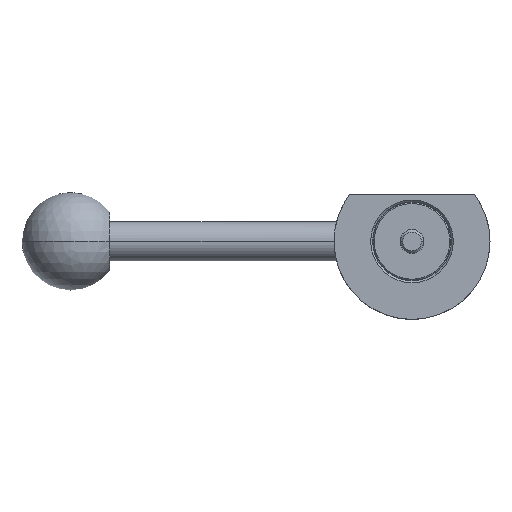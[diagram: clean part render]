
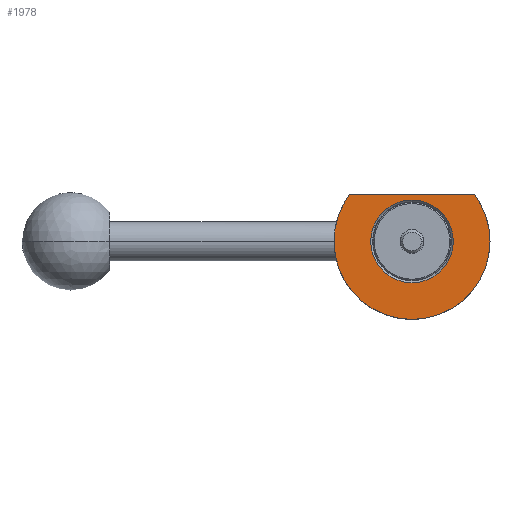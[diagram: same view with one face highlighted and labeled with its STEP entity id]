
A CAD part, front view. The second image highlights one B-rep face of the part: STEP entity #1978.
In plain terms, the highlighted planar face has unit normal (0, -1, 0).
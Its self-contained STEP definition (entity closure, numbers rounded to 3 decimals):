
#60 = CARTESIAN_POINT ( 'NONE',  ( -10.6, -10., 0. ) ) ;
#67 = EDGE_CURVE ( 'NONE', #704, #684, #894, .T. ) ;
#80 = EDGE_CURVE ( 'NONE', #2025, #153, #98, .T. ) ;
#93 = AXIS2_PLACEMENT_3D ( 'NONE', #1556, #1124, #953 ) ;
#98 = CIRCLE ( 'NONE', #892, 10.6 ) ;
#117 = FACE_OUTER_BOUND ( 'NONE', #1683, .T. ) ;
#128 = FACE_BOUND ( 'NONE', #315, .T. ) ;
#141 = DIRECTION ( 'NONE',  ( 0., 1., 0. ) ) ;
#153 = VERTEX_POINT ( 'NONE', #1991 ) ;
#189 = VERTEX_POINT ( 'NONE', #2002 ) ;
#245 = CARTESIAN_POINT ( 'NONE',  ( 0., -10., 0. ) ) ;
#257 = DIRECTION ( 'NONE',  ( 1., 0., 0. ) ) ;
#280 = DIRECTION ( 'NONE',  ( 0., 1., 0. ) ) ;
#299 = CIRCLE ( 'NONE', #93, 10.6 ) ;
#315 = EDGE_LOOP ( 'NONE', ( #1298, #1769 ) ) ;
#363 = CARTESIAN_POINT ( 'NONE',  ( 16.001, -10., 11.999 ) ) ;
#421 = VERTEX_POINT ( 'NONE', #363 ) ;
#427 = LINE ( 'NONE', #1375, #593 ) ;
#441 = DIRECTION ( 'NONE',  ( -1., 0., 0. ) ) ;
#558 = DIRECTION ( 'NONE',  ( 0., 1., 0. ) ) ;
#573 = CARTESIAN_POINT ( 'NONE',  ( 0., -10., 0. ) ) ;
#586 = DIRECTION ( 'NONE',  ( -1., 0., 0. ) ) ;
#593 = VECTOR ( 'NONE', #586, 1000. ) ;
#627 = CIRCLE ( 'NONE', #1698, 20. ) ;
#671 = EDGE_CURVE ( 'NONE', #421, #189, #959, .T. ) ;
#684 = VERTEX_POINT ( 'NONE', #1038 ) ;
#704 = VERTEX_POINT ( 'NONE', #1860 ) ;
#708 = EDGE_CURVE ( 'NONE', #421, #684, #427, .T. ) ;
#744 = PLANE ( 'NONE',  #1743 ) ;
#836 = ORIENTED_EDGE ( 'NONE', *, *, #1618, .F. ) ;
#892 = AXIS2_PLACEMENT_3D ( 'NONE', #573, #141, #2022 ) ;
#894 = CIRCLE ( 'NONE', #1665, 20. ) ;
#902 = DIRECTION ( 'NONE',  ( 0., -1., 0. ) ) ;
#941 = CARTESIAN_POINT ( 'NONE',  ( 0., -10., 0. ) ) ;
#953 = DIRECTION ( 'NONE',  ( -1., 0., 0. ) ) ;
#959 = CIRCLE ( 'NONE', #2026, 20. ) ;
#1038 = CARTESIAN_POINT ( 'NONE',  ( -16.001, -10., 11.999 ) ) ;
#1060 = DIRECTION ( 'NONE',  ( -1., 0., 0. ) ) ;
#1124 = DIRECTION ( 'NONE',  ( 0., 1., 0. ) ) ;
#1153 = EDGE_CURVE ( 'NONE', #153, #2025, #299, .T. ) ;
#1298 = ORIENTED_EDGE ( 'NONE', *, *, #1153, .T. ) ;
#1375 = CARTESIAN_POINT ( 'NONE',  ( -10.6, -10., 11.999 ) ) ;
#1404 = CARTESIAN_POINT ( 'NONE',  ( 0., -10., 0. ) ) ;
#1511 = ORIENTED_EDGE ( 'NONE', *, *, #671, .F. ) ;
#1543 = CARTESIAN_POINT ( 'NONE',  ( -10.6, -10., 0. ) ) ;
#1556 = CARTESIAN_POINT ( 'NONE',  ( 0., -10., 0. ) ) ;
#1565 = DIRECTION ( 'NONE',  ( 0., 1., 0. ) ) ;
#1618 = EDGE_CURVE ( 'NONE', #189, #704, #627, .T. ) ;
#1665 = AXIS2_PLACEMENT_3D ( 'NONE', #1404, #1565, #441 ) ;
#1683 = EDGE_LOOP ( 'NONE', ( #1511, #2044, #1883, #836 ) ) ;
#1698 = AXIS2_PLACEMENT_3D ( 'NONE', #941, #280, #2021 ) ;
#1743 = AXIS2_PLACEMENT_3D ( 'NONE', #1543, #902, #257 ) ;
#1769 = ORIENTED_EDGE ( 'NONE', *, *, #80, .T. ) ;
#1860 = CARTESIAN_POINT ( 'NONE',  ( -20., -10., 0. ) ) ;
#1883 = ORIENTED_EDGE ( 'NONE', *, *, #67, .F. ) ;
#1978 = ADVANCED_FACE ( 'NONE', ( #128, #117 ), #744, .T. ) ;
#1991 = CARTESIAN_POINT ( 'NONE',  ( 10.6, -10., 0. ) ) ;
#2002 = CARTESIAN_POINT ( 'NONE',  ( 20., -10., 0. ) ) ;
#2021 = DIRECTION ( 'NONE',  ( -1., 0., 0. ) ) ;
#2022 = DIRECTION ( 'NONE',  ( -1., 0., 0. ) ) ;
#2025 = VERTEX_POINT ( 'NONE', #60 ) ;
#2026 = AXIS2_PLACEMENT_3D ( 'NONE', #245, #558, #1060 ) ;
#2044 = ORIENTED_EDGE ( 'NONE', *, *, #708, .T. ) ;
